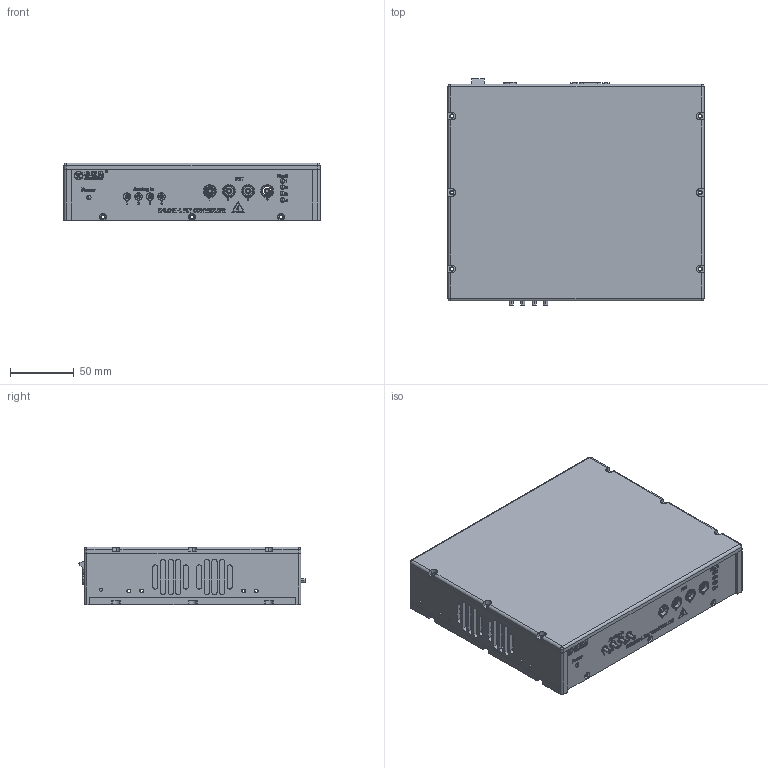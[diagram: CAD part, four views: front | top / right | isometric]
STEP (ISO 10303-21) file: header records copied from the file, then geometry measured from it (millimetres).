
FILE_DESCRIPTION (( 'STEP AP203' ), '1' );
FILE_NAME ('E70.C4K-L.STEP', '2025-07-15T07:16:32', ( 'China' ), ( 'Home' ), 'SwSTEP 2.0', 'SolidWorks 2016', '' );
FILE_SCHEMA (( 'CONFIG_CONTROL_DESIGN' ));
Products named in the file (1): E70.C4K-L
Bounding box: 201 x 177.49 x 45.5 mm (x, y, z)
Surface area: 153061.2 mm2 (no closed solid volume)
Topology: 0 solids, 94 shells, 1128 faces, 5382 edges, 4232 vertices
Faces by surface type: plane 517, cylinder 416, cone 80, bspline 80, sphere 22, torus 13
Entity records: 65070 total; most frequent: CARTESIAN_POINT 24514, DIRECTION 7544, ORIENTED_EDGE 7344, EDGE_CURVE 5348, VERTEX_POINT 4220, VECTOR 3208, LINE 3208, AXIS2_PLACEMENT_3D 2168
